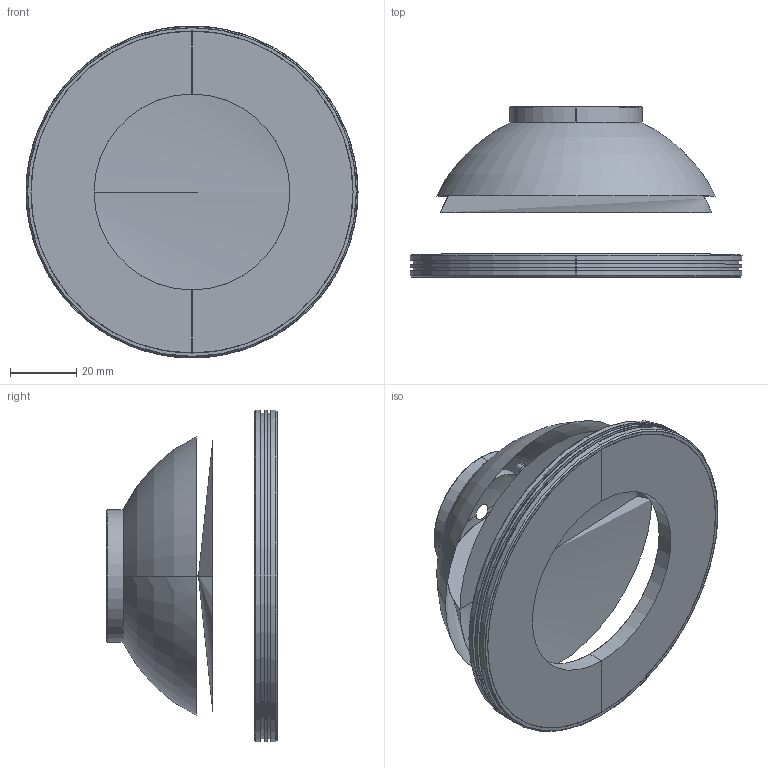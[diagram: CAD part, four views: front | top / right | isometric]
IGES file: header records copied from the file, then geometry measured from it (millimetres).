
Start section: SolidWorks IGES file using analytic representation for surfaces
Global section: file name: Z:\新款图纸\标准产品\碗光\DM100\ED\DM100.IGS; native system: SolidWorks 2018; preprocessor: SolidWorks 2018; author: Qi Peng; date: 190618.141211; units: millimetre
Bounding box: 100 x 51.5 x 100 mm (x, y, z)
Surface area: 42988.2 mm2 (no closed solid volume)
Topology: 0 solids, 0 shells, 175 faces, 3312 edges, 3304 vertices
Faces by surface type: revolution 90, bspline 85
